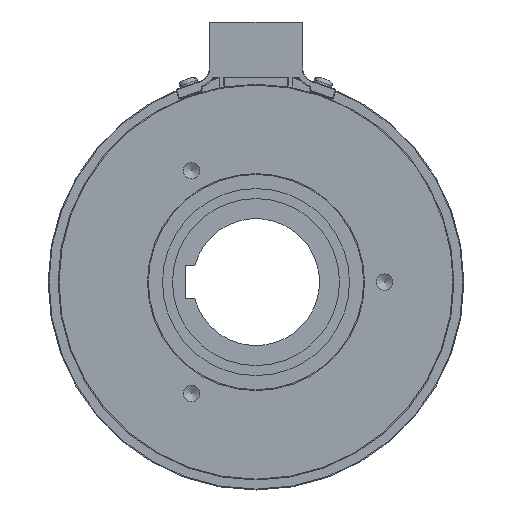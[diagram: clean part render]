
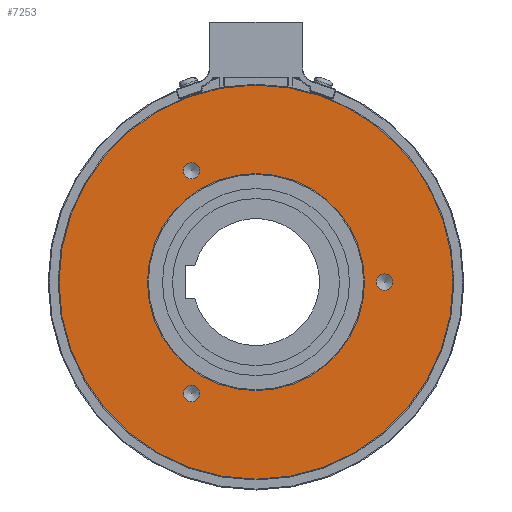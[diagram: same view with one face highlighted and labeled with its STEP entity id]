
A CAD part, left-side view. The second image highlights one B-rep face of the part: STEP entity #7253.
In plain terms, the highlighted planar face has unit normal (-1, 0, 0).
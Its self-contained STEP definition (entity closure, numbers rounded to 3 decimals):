
#152=PLANE('',#7941);
#209=FACE_BOUND('',#943,.T.);
#210=FACE_BOUND('',#944,.T.);
#211=FACE_BOUND('',#945,.T.);
#212=FACE_BOUND('',#946,.T.);
#522=FACE_OUTER_BOUND('',#942,.T.);
#942=EDGE_LOOP('',(#5422,#5423,#5424));
#943=EDGE_LOOP('',(#5425,#5426));
#944=EDGE_LOOP('',(#5427,#5428));
#945=EDGE_LOOP('',(#5429,#5430));
#946=EDGE_LOOP('',(#5431,#5432));
#1220=CIRCLE('',#7468,59.);
#1221=CIRCLE('',#7469,59.);
#1430=CIRCLE('',#7864,2.459);
#1431=CIRCLE('',#7865,2.459);
#1434=CIRCLE('',#7870,2.459);
#1435=CIRCLE('',#7871,2.459);
#1438=CIRCLE('',#7876,2.459);
#1439=CIRCLE('',#7877,2.459);
#1482=CIRCLE('',#7940,59.);
#1483=CIRCLE('',#7942,32.5);
#1484=CIRCLE('',#7943,32.5);
#2652=VERTEX_POINT('',#11007);
#2657=VERTEX_POINT('',#11017);
#2658=VERTEX_POINT('',#11019);
#2912=VERTEX_POINT('',#12058);
#2913=VERTEX_POINT('',#12059);
#2917=VERTEX_POINT('',#12071);
#2918=VERTEX_POINT('',#12072);
#2922=VERTEX_POINT('',#12084);
#2923=VERTEX_POINT('',#12085);
#2966=VERTEX_POINT('',#12234);
#2967=VERTEX_POINT('',#12235);
#3354=EDGE_CURVE('',#2658,#2657,#1220,.T.);
#3355=EDGE_CURVE('',#2652,#2658,#1221,.T.);
#3790=EDGE_CURVE('',#2912,#2913,#1430,.T.);
#3791=EDGE_CURVE('',#2913,#2912,#1431,.T.);
#3796=EDGE_CURVE('',#2917,#2918,#1434,.T.);
#3797=EDGE_CURVE('',#2918,#2917,#1435,.T.);
#3802=EDGE_CURVE('',#2922,#2923,#1438,.T.);
#3803=EDGE_CURVE('',#2923,#2922,#1439,.T.);
#3861=EDGE_CURVE('',#2657,#2652,#1482,.T.);
#3862=EDGE_CURVE('',#2966,#2967,#1483,.T.);
#3863=EDGE_CURVE('',#2967,#2966,#1484,.T.);
#5422=ORIENTED_EDGE('',*,*,#3354,.T.);
#5423=ORIENTED_EDGE('',*,*,#3861,.T.);
#5424=ORIENTED_EDGE('',*,*,#3355,.T.);
#5425=ORIENTED_EDGE('',*,*,#3790,.T.);
#5426=ORIENTED_EDGE('',*,*,#3791,.T.);
#5427=ORIENTED_EDGE('',*,*,#3796,.T.);
#5428=ORIENTED_EDGE('',*,*,#3797,.T.);
#5429=ORIENTED_EDGE('',*,*,#3802,.T.);
#5430=ORIENTED_EDGE('',*,*,#3803,.T.);
#5431=ORIENTED_EDGE('',*,*,#3862,.F.);
#5432=ORIENTED_EDGE('',*,*,#3863,.F.);
#7253=ADVANCED_FACE('',(#522,#209,#210,#211,#212),#152,.T.);
#7468=AXIS2_PLACEMENT_3D('',#11020,#8525,#8526);
#7469=AXIS2_PLACEMENT_3D('',#11021,#8527,#8528);
#7864=AXIS2_PLACEMENT_3D('',#12060,#9529,#9530);
#7865=AXIS2_PLACEMENT_3D('',#12061,#9531,#9532);
#7870=AXIS2_PLACEMENT_3D('',#12073,#9543,#9544);
#7871=AXIS2_PLACEMENT_3D('',#12074,#9545,#9546);
#7876=AXIS2_PLACEMENT_3D('',#12086,#9557,#9558);
#7877=AXIS2_PLACEMENT_3D('',#12087,#9559,#9560);
#7940=AXIS2_PLACEMENT_3D('',#12232,#9697,#9698);
#7941=AXIS2_PLACEMENT_3D('',#12233,#9699,#9700);
#7942=AXIS2_PLACEMENT_3D('',#12236,#9701,#9702);
#7943=AXIS2_PLACEMENT_3D('',#12237,#9703,#9704);
#8525=DIRECTION('center_axis',(-1.,0.,0.));
#8526=DIRECTION('ref_axis',(0.,1.,0.));
#8527=DIRECTION('center_axis',(-1.,0.,0.));
#8528=DIRECTION('ref_axis',(0.,1.,0.));
#9529=DIRECTION('center_axis',(1.,0.,0.));
#9530=DIRECTION('ref_axis',(0.,0.,
1.));
#9531=DIRECTION('center_axis',(1.,0.,0.));
#9532=DIRECTION('ref_axis',(0.,0.,
1.));
#9543=DIRECTION('center_axis',(1.,0.,0.));
#9544=DIRECTION('ref_axis',(0.,0.,
1.));
#9545=DIRECTION('center_axis',(1.,0.,0.));
#9546=DIRECTION('ref_axis',(0.,0.,
1.));
#9557=DIRECTION('center_axis',(1.,0.,0.));
#9558=DIRECTION('ref_axis',(0.,0.,
1.));
#9559=DIRECTION('center_axis',(1.,0.,0.));
#9560=DIRECTION('ref_axis',(0.,0.,
1.));
#9697=DIRECTION('center_axis',(-1.,0.,0.));
#9698=DIRECTION('ref_axis',(0.,1.,0.));
#9699=DIRECTION('center_axis',(-1.,0.,0.));
#9700=DIRECTION('ref_axis',(0.,0.,
1.));
#9701=DIRECTION('center_axis',(-1.,0.,0.));
#9702=DIRECTION('ref_axis',(0.,1.,0.));
#9703=DIRECTION('center_axis',(-1.,0.,0.));
#9704=DIRECTION('ref_axis',(0.,1.,0.));
#11007=CARTESIAN_POINT('',(-17.9,-9.667,58.203));
#11017=CARTESIAN_POINT('',(-17.9,-59.,0.));
#11019=CARTESIAN_POINT('',(-17.9,59.,0.));
#11020=CARTESIAN_POINT('Origin',(-17.9,0.,0.));
#11021=CARTESIAN_POINT('Origin',(-17.9,0.,0.));
#12058=CARTESIAN_POINT('',(-17.9,19.25,35.8));
#12059=CARTESIAN_POINT('',(-17.9,19.25,30.883));
#12060=CARTESIAN_POINT('Origin',(-17.9,19.25,33.342));
#12061=CARTESIAN_POINT('Origin',(-17.9,19.25,33.342));
#12071=CARTESIAN_POINT('',(-17.9,-38.5,2.459));
#12072=CARTESIAN_POINT('',(-17.9,-38.5,-2.458));
#12073=CARTESIAN_POINT('Origin',(-17.9,-38.5,0.));
#12074=CARTESIAN_POINT('Origin',(-17.9,-38.5,0.));
#12084=CARTESIAN_POINT('',(-17.9,19.25,-30.883));
#12085=CARTESIAN_POINT('',(-17.9,19.25,-35.8));
#12086=CARTESIAN_POINT('Origin',(-17.9,19.25,-33.342));
#12087=CARTESIAN_POINT('Origin',(-17.9,19.25,-33.342));
#12232=CARTESIAN_POINT('Origin',(-17.9,0.,0.));
#12233=CARTESIAN_POINT('Origin',(-17.9,45.75,0.));
#12234=CARTESIAN_POINT('',(-17.9,32.5,0.));
#12235=CARTESIAN_POINT('',(-17.9,-32.5,0.));
#12236=CARTESIAN_POINT('Origin',(-17.9,0.,0.));
#12237=CARTESIAN_POINT('Origin',(-17.9,0.,0.));
